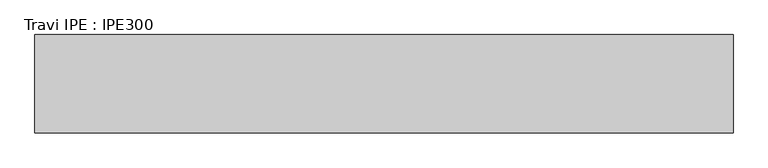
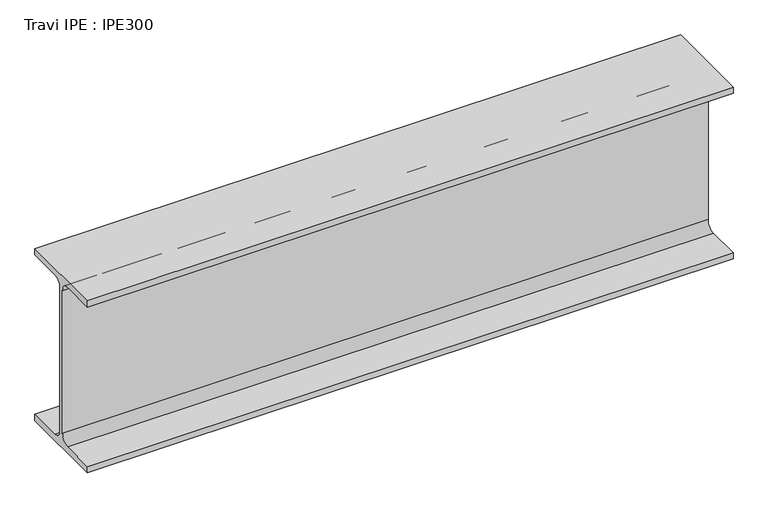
"""IFC4 building model written with IfcOpenShell, lengths in millimetres: beam geometry, Travi IPE : IPE300."""

from ifc_helpers import new_model, si_unit, point, frame, frame_2d, origin, place, context, project, spatial, polyline, circle_curve, trimmed, segment, composite_curve, outline, extrude, source, transform, mapped, element, save


def travi_ipe_ipe300_f150801b(model_context):
    return source(origin(), model_context, "Body", "SweptSolid", [
        extrude(outline(composite_curve([segment(polyline([(75.0, -139.3), (75.0, -150.0), (-75.0, -150.0), (-75.0, -139.3), (-18.55, -139.3)]), True, "CONTINUOUS"), segment(trimmed(circle_curve(frame_2d((-18.55, -124.3)), 15.0), [point((-18.55, -139.3))], [point((-3.55, -124.3))], True, "CARTESIAN"), True, "CONTINUOUS"), segment(polyline([(-3.55, -124.3), (-3.55, 124.3)]), True, "CONTINUOUS"), segment(trimmed(circle_curve(frame_2d((-18.55, 124.3)), 15.0), [point((-3.55, 124.3))], [point((-18.55, 139.3))], True, "CARTESIAN"), True, "CONTINUOUS"), segment(polyline([(-18.55, 139.3), (-75.0, 139.3), (-75.0, 150.0), (75.0, 150.0), (75.0, 139.3), (18.55, 139.3)]), True, "CONTINUOUS"), segment(trimmed(circle_curve(frame_2d((18.55, 124.3)), 15.0), [point((18.55, 139.3))], [point((3.55, 124.3))], True, "CARTESIAN"), True, "CONTINUOUS"), segment(polyline([(3.55, 124.3), (3.55, -124.3)]), True, "CONTINUOUS"), segment(trimmed(circle_curve(frame_2d((18.55, -124.3)), 15.0), [point((3.55, -124.3))], [point((18.55, -139.3))], True, "CARTESIAN"), True, "CONTINUOUS"), segment(polyline([(18.55, -139.3), (75.0, -139.3)]), True, "CONTINUOUS")], self_intersect=False)), frame((-533.5, 0.0, 0.0), z_axis=(1.0, 0.0, 0.0), x_axis=(0.0, 1.0, 0.0)), (0.0, 0.0, 1.0), 1066.0),
    ])


if __name__ == "__main__":
    model = new_model("IFC4")
    model_context = context("Model", 3, world=origin())
    ifc_project = project(units=[si_unit("LENGTHUNIT", "METRE", prefix="MILLI")], contexts=[model_context])
    site = spatial("IfcSite", under=ifc_project)
    building = spatial("IfcBuilding", under=site)
    placement = place(None, origin())
    travi_ipe_ipe300_shape = travi_ipe_ipe300_f150801b(model_context)
    element("IfcBeam", 1, ObjectType="Travi IPE : IPE300", at=placement, inside=building, context=model_context, shape_type="MappedRepresentation", body=[
        mapped(travi_ipe_ipe300_shape, transform((0.0, 0.0, 0.0), x_axis=(1.0, 0.0, 0.0), y_axis=(0.0, 1.0, 0.0), z_axis=(0.0, 0.0, 1.0))),
    ])
    save(model, "model.ifc")
